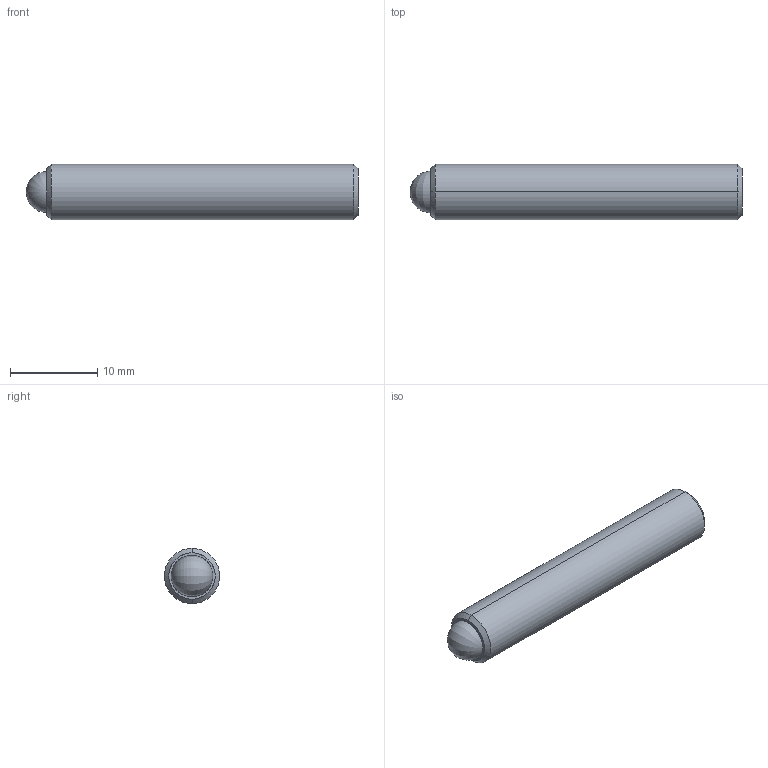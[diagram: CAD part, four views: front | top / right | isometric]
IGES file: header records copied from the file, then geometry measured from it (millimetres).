
Start section: SolidWorks IGES file using analytic representation for surfaces
Global section: file name: C:\Users\workpc\Desktop\KMA Solidworks\TS250-80 Series\TS250-80 SLDW\TS250-80-1500-AA.IGS; native system: SolidWorks 2013; preprocessor: SolidWorks 2013; author: workpc; date: 130211.163211; units: inch
Bounding box: 38.1 x 6.35 x 6.35 mm (x, y, z)
Surface area: 880 mm2 (no closed solid volume)
Topology: 0 solids, 0 shells, 20 faces, 204 edges, 200 vertices
Faces by surface type: revolution 10, bspline 10
